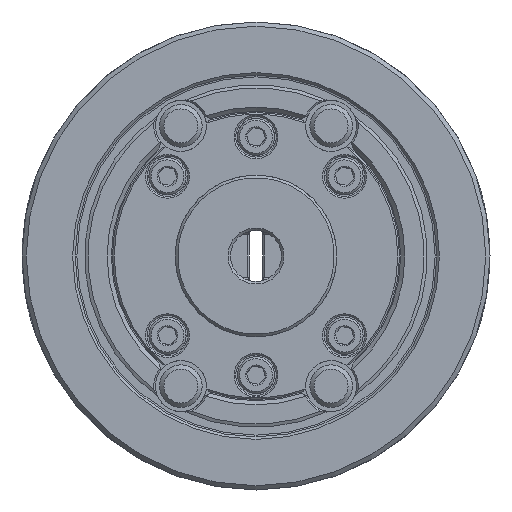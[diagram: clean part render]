
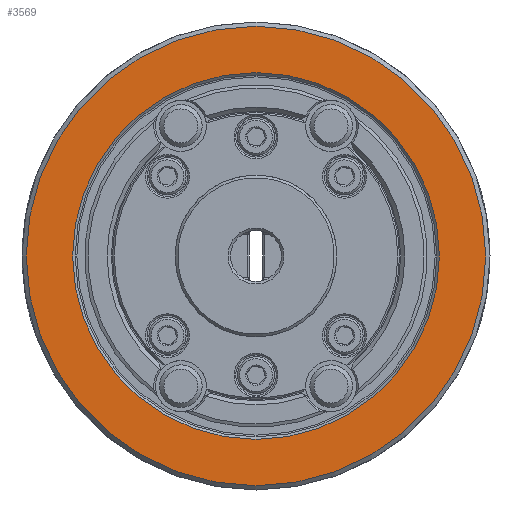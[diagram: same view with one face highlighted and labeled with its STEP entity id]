
A CAD part, left-side view. The second image highlights one B-rep face of the part: STEP entity #3569.
In plain terms, the highlighted planar face has unit normal (-1, 0, 0).
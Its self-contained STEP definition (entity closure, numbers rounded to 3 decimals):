
#470 = EDGE_CURVE ( 'NONE', #35622, #35622, #1168, .T. ) ;
#604 = EDGE_LOOP ( 'NONE', ( #21520 ) ) ;
#1168 = CIRCLE ( 'NONE', #29142, 54. ) ;
#3569 = ADVANCED_FACE ( 'NONE', ( #20444, #18752 ), #58094, .F. ) ;
#7180 = AXIS2_PLACEMENT_3D ( 'NONE', #29701, #19987, #29070 ) ;
#11086 = CARTESIAN_POINT ( 'NONE',  ( -59., 0., 0. ) ) ;
#17976 = ORIENTED_EDGE ( 'NONE', *, *, #51545, .T. ) ;
#18752 = FACE_BOUND ( 'NONE', #57699, .T. ) ;
#19987 = DIRECTION ( 'NONE',  ( 1., 0., 0. ) ) ;
#20444 = FACE_OUTER_BOUND ( 'NONE', #604, .T. ) ;
#21520 = ORIENTED_EDGE ( 'NONE', *, *, #470, .F. ) ;
#25694 = AXIS2_PLACEMENT_3D ( 'NONE', #11086, #33906, #39209 ) ;
#29070 = DIRECTION ( 'NONE',  ( 0., 0., -1. ) ) ;
#29142 = AXIS2_PLACEMENT_3D ( 'NONE', #57447, #48071, #42155 ) ;
#29701 = CARTESIAN_POINT ( 'NONE',  ( -59., -43.1, 0. ) ) ;
#31500 = CARTESIAN_POINT ( 'NONE',  ( -59., 0., -43.1 ) ) ;
#33906 = DIRECTION ( 'NONE',  ( 1., 0., 0. ) ) ;
#35622 = VERTEX_POINT ( 'NONE', #58722 ) ;
#38687 = CIRCLE ( 'NONE', #25694, 43.1 ) ;
#39209 = DIRECTION ( 'NONE',  ( 0., 0., -1. ) ) ;
#42155 = DIRECTION ( 'NONE',  ( 0., 0., -1. ) ) ;
#48071 = DIRECTION ( 'NONE',  ( 1., 0., 0. ) ) ;
#51545 = EDGE_CURVE ( 'NONE', #55526, #55526, #38687, .T. ) ;
#55526 = VERTEX_POINT ( 'NONE', #31500 ) ;
#57447 = CARTESIAN_POINT ( 'NONE',  ( -59., 0., 0. ) ) ;
#57699 = EDGE_LOOP ( 'NONE', ( #17976 ) ) ;
#58094 = PLANE ( 'NONE',  #7180 ) ;
#58722 = CARTESIAN_POINT ( 'NONE',  ( -59., 0., -54. ) ) ;
